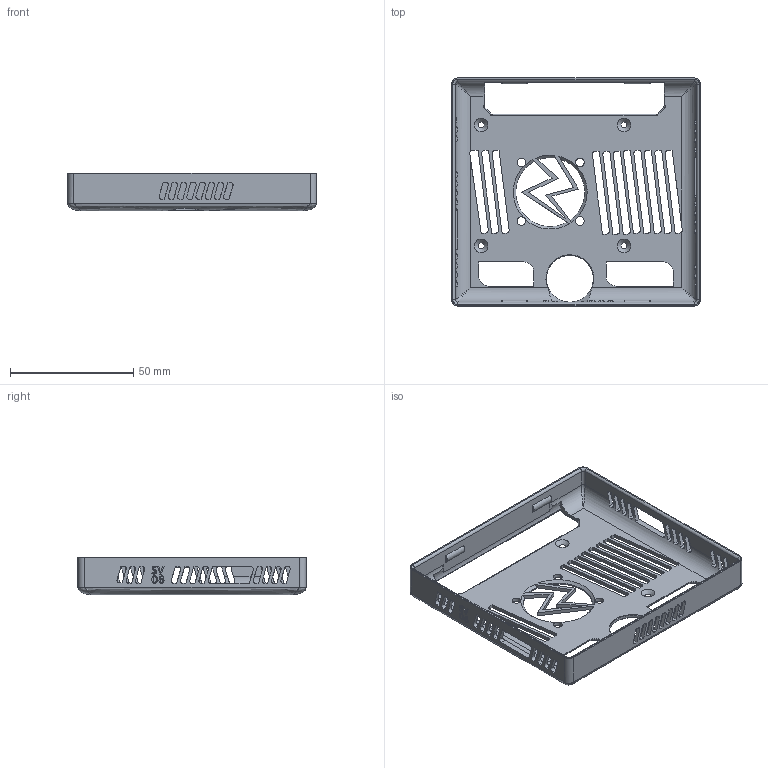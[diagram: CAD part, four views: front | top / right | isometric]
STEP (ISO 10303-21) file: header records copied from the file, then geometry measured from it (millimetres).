
FILE_DESCRIPTION(/* description */ ('STEP AP242','CAx-IF Rec.Pracs.---Representation and Presentation of Product Manufacturing Information (PMI)---4.0---2014-10-13','CAx-IF Rec.Pracs.---3D Tessellated Geometry---0.4---2014-09-14','2;1'),/* implementation_level */ '2;1');
FILE_NAME(/* name */ '65281d303e077a3ef37d356d',/* time_stamp */ '2023-10-12T16:22:10Z',/* author */ (''),/* organization */ (''),/* preprocessor_version */ 'ST-DEVELOPER v19.4',/* originating_system */ ' ',/* authorisation */ ' ');
FILE_SCHEMA (('AP242_MANAGED_MODEL_BASED_3D_ENGINEERING_MIM_LF { 1 0 10303 442 1 1 4 }'));
Length unit declared in the file: metre
Products named in the file (1): Shell
Bounding box: 101 x 92.6 x 15.3 mm (x, y, z)
Volume: 16292.9 mm3; surface area: 22945.6 mm2
Topology: 1 solids, 1 shells, 719 faces, 2132 edges, 1394 vertices
Faces by surface type: plane 300, bspline 242, cylinder 138, torus 26, cone 13
Full cylindrical faces by diameter (mm): 3.5 x4, 19.048 x1
Entity records: 28491 total; most frequent: CARTESIAN_POINT 10659, ORIENTED_EDGE 4226, DIRECTION 2854, EDGE_CURVE 2113, VERTEX_POINT 1392, LINE 1196, VECTOR 1196, EDGE_LOOP 831
